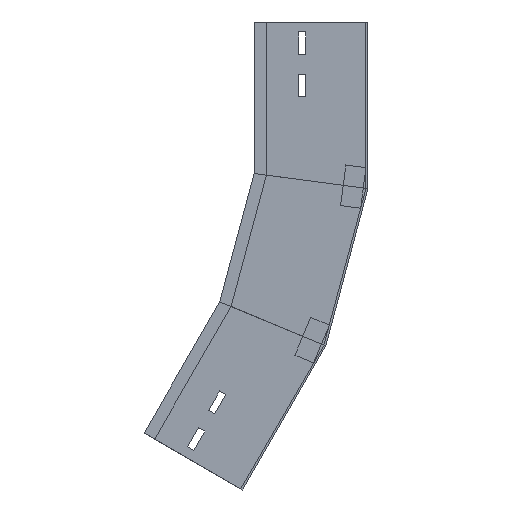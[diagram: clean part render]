
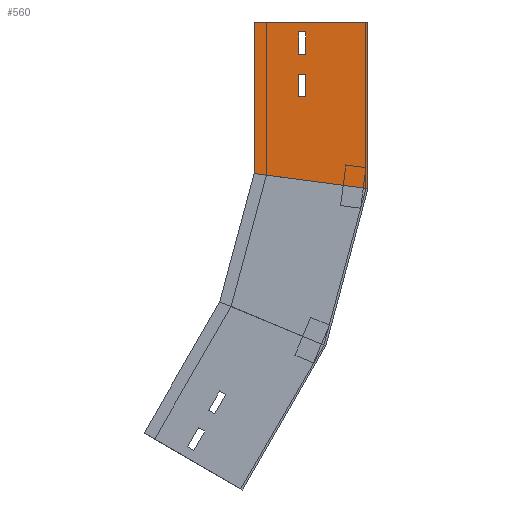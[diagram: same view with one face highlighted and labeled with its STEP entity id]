
A CAD part, left-side view. The second image highlights one B-rep face of the part: STEP entity #560.
In plain terms, the highlighted planar face has unit normal (-1, 0, 0) as drawn and (1, 0, 0) by its records, which use the part's own axes.
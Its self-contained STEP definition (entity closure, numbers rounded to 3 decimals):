
#13 = VERTEX_POINT ( 'NONE', #338 ) ;
#14 = CARTESIAN_POINT ( 'NONE',  ( 0., 146.514, -364.658 ) ) ;
#39 = VECTOR ( 'NONE', #1310, 1000. ) ;
#49 = CARTESIAN_POINT ( 'NONE',  ( 0., 151.452, -387.211 ) ) ;
#54 = CARTESIAN_POINT ( 'NONE',  ( 0., 178.349, -419.798 ) ) ;
#56 = CARTESIAN_POINT ( 'NONE',  ( 0., 41.644, -320.017 ) ) ;
#90 = VERTEX_POINT ( 'NONE', #14 ) ;
#122 = EDGE_LOOP ( 'NONE', ( #647, #169, #1480, #1277 ) ) ;
#129 = ORIENTED_EDGE ( 'NONE', *, *, #950, .F. ) ;
#152 = VECTOR ( 'NONE', #1030, 1000. ) ;
#155 = DIRECTION ( 'NONE',  ( 0., 0., 1. ) ) ;
#164 = DIRECTION ( 'NONE',  ( 0., 0.866, 0.5 ) ) ;
#169 = ORIENTED_EDGE ( 'NONE', *, *, #650, .F. ) ;
#184 = EDGE_CURVE ( 'NONE', #516, #1474, #1218, .T. ) ;
#197 = ORIENTED_EDGE ( 'NONE', *, *, #724, .T. ) ;
#210 = EDGE_CURVE ( 'NONE', #1197, #731, #868, .T. ) ;
#212 = VECTOR ( 'NONE', #435, 1000. ) ;
#222 = VECTOR ( 'NONE', #964, 1000. ) ;
#228 = CARTESIAN_POINT ( 'NONE',  ( 0., 221.372, -406.315 ) ) ;
#254 = AXIS2_PLACEMENT_3D ( 'NONE', #56, #759, #155 ) ;
#294 = LINE ( 'NONE', #1440, #1352 ) ;
#307 = DIRECTION ( 'NONE',  ( 0., 0.866, 0.5 ) ) ;
#322 = ORIENTED_EDGE ( 'NONE', *, *, #901, .F. ) ;
#327 = VECTOR ( 'NONE', #1109, 1000. ) ;
#338 = CARTESIAN_POINT ( 'NONE',  ( 0., 161.287, -404.245 ) ) ;
#369 = CARTESIAN_POINT ( 'NONE',  ( 0., 178.349, -419.798 ) ) ;
#381 = VECTOR ( 'NONE', #1333, 1000. ) ;
#384 = ORIENTED_EDGE ( 'NONE', *, *, #788, .T. ) ;
#387 = DIRECTION ( 'NONE',  ( 0., 0.5, -0.866 ) ) ;
#421 = DIRECTION ( 'NONE',  ( 0., -0.5, 0.866 ) ) ;
#435 = DIRECTION ( 'NONE',  ( 0., -0.924, -0.383 ) ) ;
#439 = EDGE_CURVE ( 'NONE', #822, #667, #1328, .T. ) ;
#444 = DIRECTION ( 'NONE',  ( 0., -0.5, 0.866 ) ) ;
#495 = EDGE_CURVE ( 'NONE', #1340, #863, #925, .T. ) ;
#516 = VERTEX_POINT ( 'NONE', #369 ) ;
#527 = VECTOR ( 'NONE', #444, 1000. ) ;
#529 = LINE ( 'NONE', #1219, #327 ) ;
#540 = CARTESIAN_POINT ( 'NONE',  ( 0., 157.514, -383.711 ) ) ;
#552 = CARTESIAN_POINT ( 'NONE',  ( 0., 157.514, -383.711 ) ) ;
#560 = ADVANCED_FACE ( 'NONE', ( #1112, #1102, #1464 ), #1283, .F. ) ;
#564 = LINE ( 'NONE', #552, #152 ) ;
#568 = VECTOR ( 'NONE', #1449, 1000. ) ;
#647 = ORIENTED_EDGE ( 'NONE', *, *, #688, .F. ) ;
#650 = EDGE_CURVE ( 'NONE', #863, #665, #564, .T. ) ;
#661 = LINE ( 'NONE', #1144, #527 ) ;
#665 = VERTEX_POINT ( 'NONE', #540 ) ;
#667 = VERTEX_POINT ( 'NONE', #780 ) ;
#678 = CARTESIAN_POINT ( 'NONE',  ( 0., 146.477, -276.594 ) ) ;
#688 = EDGE_CURVE ( 'NONE', #665, #90, #661, .T. ) ;
#724 = EDGE_CURVE ( 'NONE', #1197, #822, #1486, .T. ) ;
#726 = EDGE_LOOP ( 'NONE', ( #197, #1393, #384, #1072 ) ) ;
#731 = VERTEX_POINT ( 'NONE', #228 ) ;
#750 = CARTESIAN_POINT ( 'NONE',  ( 0., 41.644, -320.017 ) ) ;
#757 = CARTESIAN_POINT ( 'NONE',  ( 0., 41.644, -320.017 ) ) ;
#759 = DIRECTION ( 'NONE',  ( -1., 0., 0. ) ) ;
#760 = VECTOR ( 'NONE', #387, 1000. ) ;
#762 = ORIENTED_EDGE ( 'NONE', *, *, #184, .F. ) ;
#769 = LINE ( 'NONE', #1239, #1151 ) ;
#780 = CARTESIAN_POINT ( 'NONE',  ( 0., 123.944, -462.565 ) ) ;
#788 = EDGE_CURVE ( 'NONE', #667, #731, #294, .T. ) ;
#804 = EDGE_CURVE ( 'NONE', #13, #815, #529, .T. ) ;
#815 = VERTEX_POINT ( 'NONE', #876 ) ;
#822 = VERTEX_POINT ( 'NONE', #757 ) ;
#837 = LINE ( 'NONE', #1425, #222 ) ;
#863 = VERTEX_POINT ( 'NONE', #49 ) ;
#867 = LINE ( 'NONE', #1321, #568 ) ;
#868 = LINE ( 'NONE', #1107, #381 ) ;
#876 = CARTESIAN_POINT ( 'NONE',  ( 0., 172.287, -423.298 ) ) ;
#901 = EDGE_CURVE ( 'NONE', #815, #516, #769, .T. ) ;
#907 = EDGE_LOOP ( 'NONE', ( #762, #322, #934, #129 ) ) ;
#925 = LINE ( 'NONE', #1299, #760 ) ;
#934 = ORIENTED_EDGE ( 'NONE', *, *, #804, .F. ) ;
#950 = EDGE_CURVE ( 'NONE', #1474, #13, #867, .T. ) ;
#964 = DIRECTION ( 'NONE',  ( 0., -0.866, -0.5 ) ) ;
#965 = CARTESIAN_POINT ( 'NONE',  ( 0., 140.452, -368.158 ) ) ;
#1030 = DIRECTION ( 'NONE',  ( 0., 0.866, 0.5 ) ) ;
#1072 = ORIENTED_EDGE ( 'NONE', *, *, #210, .F. ) ;
#1102 = FACE_BOUND ( 'NONE', #122, .T. ) ;
#1107 = CARTESIAN_POINT ( 'NONE',  ( 0., 139.072, -263.767 ) ) ;
#1109 = DIRECTION ( 'NONE',  ( 0., 0.5, -0.866 ) ) ;
#1112 = FACE_BOUND ( 'NONE', #907, .T. ) ;
#1144 = CARTESIAN_POINT ( 'NONE',  ( 0., 157.514, -383.711 ) ) ;
#1151 = VECTOR ( 'NONE', #164, 1000. ) ;
#1197 = VERTEX_POINT ( 'NONE', #678 ) ;
#1218 = LINE ( 'NONE', #54, #1467 ) ;
#1219 = CARTESIAN_POINT ( 'NONE',  ( 0., 172.287, -423.298 ) ) ;
#1239 = CARTESIAN_POINT ( 'NONE',  ( 0., 178.349, -419.798 ) ) ;
#1258 = CARTESIAN_POINT ( 'NONE',  ( 0., 61.047, -311.98 ) ) ;
#1277 = ORIENTED_EDGE ( 'NONE', *, *, #1301, .F. ) ;
#1283 = PLANE ( 'NONE',  #254 ) ;
#1299 = CARTESIAN_POINT ( 'NONE',  ( 0., 151.452, -387.211 ) ) ;
#1301 = EDGE_CURVE ( 'NONE', #90, #1340, #837, .T. ) ;
#1310 = DIRECTION ( 'NONE',  ( 0., 0.5, -0.866 ) ) ;
#1321 = CARTESIAN_POINT ( 'NONE',  ( 0., 167.349, -400.745 ) ) ;
#1328 = LINE ( 'NONE', #750, #39 ) ;
#1333 = DIRECTION ( 'NONE',  ( 0., 0.5, -0.866 ) ) ;
#1340 = VERTEX_POINT ( 'NONE', #965 ) ;
#1352 = VECTOR ( 'NONE', #307, 1000. ) ;
#1355 = CARTESIAN_POINT ( 'NONE',  ( 0., 167.349, -400.745 ) ) ;
#1393 = ORIENTED_EDGE ( 'NONE', *, *, #439, .T. ) ;
#1425 = CARTESIAN_POINT ( 'NONE',  ( 0., 146.514, -364.658 ) ) ;
#1440 = CARTESIAN_POINT ( 'NONE',  ( 0., 123.944, -462.565 ) ) ;
#1449 = DIRECTION ( 'NONE',  ( 0., -0.866, -0.5 ) ) ;
#1464 = FACE_OUTER_BOUND ( 'NONE', #726, .T. ) ;
#1467 = VECTOR ( 'NONE', #421, 1000. ) ;
#1474 = VERTEX_POINT ( 'NONE', #1355 ) ;
#1480 = ORIENTED_EDGE ( 'NONE', *, *, #495, .F. ) ;
#1486 = LINE ( 'NONE', #1258, #212 ) ;
